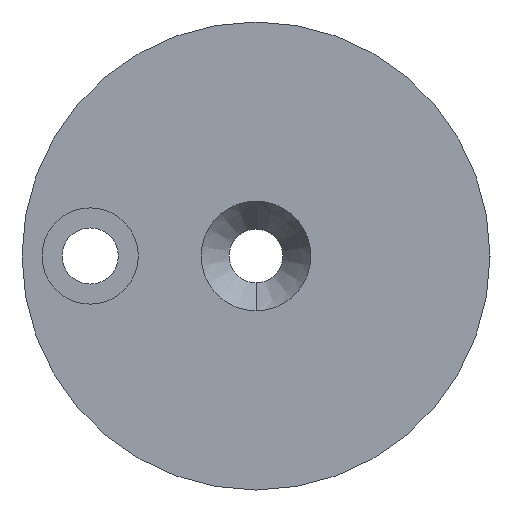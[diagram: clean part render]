
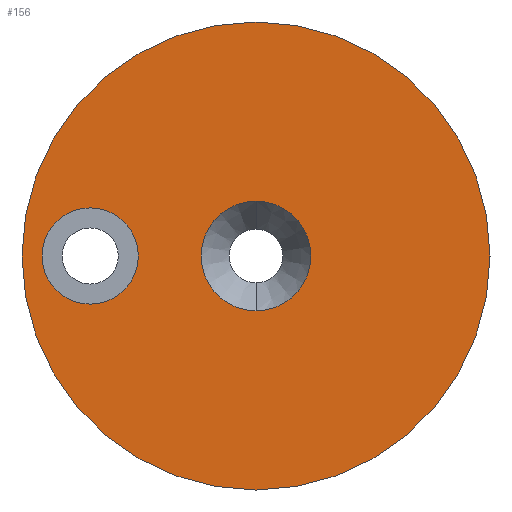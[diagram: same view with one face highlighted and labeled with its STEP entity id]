
A CAD part, left-side view. The second image highlights one B-rep face of the part: STEP entity #156.
In plain terms, the highlighted planar face has unit normal (-1, 0, 0).
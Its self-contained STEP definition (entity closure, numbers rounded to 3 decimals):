
#10 = VERTEX_POINT ( 'NONE', #544 ) ;
#17 = AXIS2_PLACEMENT_3D ( 'NONE', #482, #238, #209 ) ;
#22 = CARTESIAN_POINT ( 'NONE',  ( 0., 12.4, 3.6 ) ) ;
#24 = CARTESIAN_POINT ( 'NONE',  ( 0., 12.4, 0. ) ) ;
#31 = EDGE_CURVE ( 'NONE', #492, #108, #289, .T. ) ;
#40 = CARTESIAN_POINT ( 'NONE',  ( 0., 4.101, 0. ) ) ;
#48 = AXIS2_PLACEMENT_3D ( 'NONE', #523, #205, #425 ) ;
#63 = CARTESIAN_POINT ( 'NONE',  ( 0., 12.4, -3.6 ) ) ;
#70 = EDGE_LOOP ( 'NONE', ( #572, #583 ) ) ;
#85 = DIRECTION ( 'NONE',  ( 0., 0., -1. ) ) ;
#108 = VERTEX_POINT ( 'NONE', #270 ) ;
#138 = FACE_BOUND ( 'NONE', #306, .T. ) ;
#140 = AXIS2_PLACEMENT_3D ( 'NONE', #441, #186, #182 ) ;
#156 = ADVANCED_FACE ( 'NONE', ( #356, #138, #337 ), #549, .F. ) ;
#171 = DIRECTION ( 'NONE',  ( 0., 0., 1. ) ) ;
#178 = CIRCLE ( 'NONE', #17, 17.5 ) ;
#180 = CIRCLE ( 'NONE', #277, 3.6 ) ;
#182 = DIRECTION ( 'NONE',  ( 0., 0., 1. ) ) ;
#186 = DIRECTION ( 'NONE',  ( -1., 0., 0. ) ) ;
#193 = ORIENTED_EDGE ( 'NONE', *, *, #541, .F. ) ;
#199 = CIRCLE ( 'NONE', #525, 17.5 ) ;
#205 = DIRECTION ( 'NONE',  ( -1., 0., 0. ) ) ;
#209 = DIRECTION ( 'NONE',  ( 0., 0., 1. ) ) ;
#219 = EDGE_CURVE ( 'NONE', #10, #429, #199, .T. ) ;
#221 = AXIS2_PLACEMENT_3D ( 'NONE', #389, #536, #171 ) ;
#238 = DIRECTION ( 'NONE',  ( -1., 0., 0. ) ) ;
#257 = ORIENTED_EDGE ( 'NONE', *, *, #524, .F. ) ;
#270 = CARTESIAN_POINT ( 'NONE',  ( 0., 0., 4.101 ) ) ;
#277 = AXIS2_PLACEMENT_3D ( 'NONE', #24, #302, #396 ) ;
#285 = EDGE_LOOP ( 'NONE', ( #359, #193 ) ) ;
#289 = CIRCLE ( 'NONE', #140, 4.101 ) ;
#302 = DIRECTION ( 'NONE',  ( -1., 0., 0. ) ) ;
#305 = EDGE_CURVE ( 'NONE', #520, #503, #310, .T. ) ;
#306 = EDGE_LOOP ( 'NONE', ( #257, #451 ) ) ;
#307 = CIRCLE ( 'NONE', #221, 4.101 ) ;
#308 = DIRECTION ( 'NONE',  ( 1., 0., 0. ) ) ;
#310 = CIRCLE ( 'NONE', #48, 3.6 ) ;
#313 = EDGE_CURVE ( 'NONE', #429, #10, #178, .T. ) ;
#337 = FACE_OUTER_BOUND ( 'NONE', #70, .T. ) ;
#339 = CARTESIAN_POINT ( 'NONE',  ( 0., 0., 0. ) ) ;
#356 = FACE_BOUND ( 'NONE', #285, .T. ) ;
#359 = ORIENTED_EDGE ( 'NONE', *, *, #305, .F. ) ;
#389 = CARTESIAN_POINT ( 'NONE',  ( 0., 0., 0. ) ) ;
#396 = DIRECTION ( 'NONE',  ( 0., 0., 1. ) ) ;
#399 = AXIS2_PLACEMENT_3D ( 'NONE', #40, #308, #85 ) ;
#425 = DIRECTION ( 'NONE',  ( 0., 0., 1. ) ) ;
#429 = VERTEX_POINT ( 'NONE', #579 ) ;
#441 = CARTESIAN_POINT ( 'NONE',  ( 0., 0., 0. ) ) ;
#451 = ORIENTED_EDGE ( 'NONE', *, *, #31, .F. ) ;
#482 = CARTESIAN_POINT ( 'NONE',  ( 0., 0., 0. ) ) ;
#492 = VERTEX_POINT ( 'NONE', #529 ) ;
#503 = VERTEX_POINT ( 'NONE', #63 ) ;
#520 = VERTEX_POINT ( 'NONE', #22 ) ;
#523 = CARTESIAN_POINT ( 'NONE',  ( 0., 12.4, 0. ) ) ;
#524 = EDGE_CURVE ( 'NONE', #108, #492, #307, .T. ) ;
#525 = AXIS2_PLACEMENT_3D ( 'NONE', #339, #561, #538 ) ;
#529 = CARTESIAN_POINT ( 'NONE',  ( 0., 0., -4.101 ) ) ;
#536 = DIRECTION ( 'NONE',  ( -1., 0., 0. ) ) ;
#538 = DIRECTION ( 'NONE',  ( 0., 0., 1. ) ) ;
#541 = EDGE_CURVE ( 'NONE', #503, #520, #180, .T. ) ;
#544 = CARTESIAN_POINT ( 'NONE',  ( 0., 0., -17.5 ) ) ;
#549 = PLANE ( 'NONE',  #399 ) ;
#561 = DIRECTION ( 'NONE',  ( -1., 0., 0. ) ) ;
#572 = ORIENTED_EDGE ( 'NONE', *, *, #313, .T. ) ;
#579 = CARTESIAN_POINT ( 'NONE',  ( 0., 0., 17.5 ) ) ;
#583 = ORIENTED_EDGE ( 'NONE', *, *, #219, .T. ) ;
